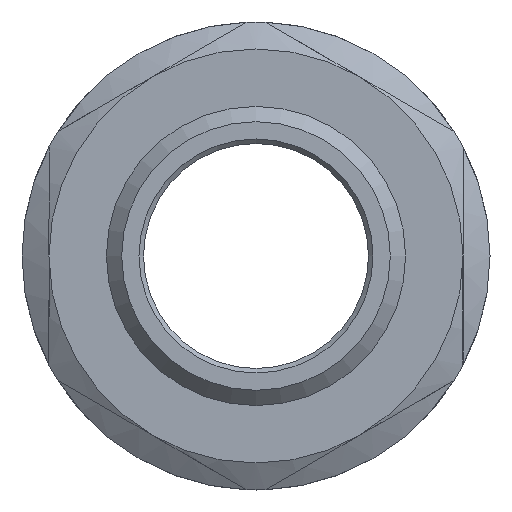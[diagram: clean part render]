
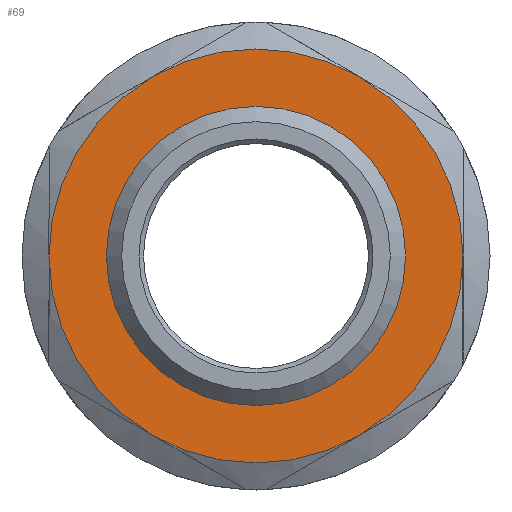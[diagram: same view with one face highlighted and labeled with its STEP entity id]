
A CAD part, front view. The second image highlights one B-rep face of the part: STEP entity #69.
In plain terms, the highlighted planar face has unit normal (0, -1, 0).
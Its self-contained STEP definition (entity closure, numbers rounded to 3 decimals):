
#69=ADVANCED_FACE('',(#264,#266),#268,.F.);
#264=FACE_BOUND('',#265,.T.);
#265=EDGE_LOOP('',(#423,#424,#425,#426,#427,#428));
#266=FACE_BOUND('',#267,.T.);
#267=EDGE_LOOP('',(#429));
#268=PLANE('',#269);
#269=AXIS2_PLACEMENT_3D('',#270,#271,#272);
#270=CARTESIAN_POINT('',(0.,-19.,0.));
#271=DIRECTION('',(0.,1.,0.));
#272=DIRECTION('',(-1.,0.,0.));
#423=ORIENTED_EDGE('',*,*,#491,.T.);
#424=ORIENTED_EDGE('',*,*,#487,.T.);
#425=ORIENTED_EDGE('',*,*,#482,.T.);
#426=ORIENTED_EDGE('',*,*,#479,.T.);
#427=ORIENTED_EDGE('',*,*,#499,.T.);
#428=ORIENTED_EDGE('',*,*,#495,.T.);
#429=ORIENTED_EDGE('',*,*,#475,.F.);
#475=EDGE_CURVE('',#571,#571,#572,.T.);
#479=EDGE_CURVE('',#575,#577,#579,.F.);
#482=EDGE_CURVE('',#582,#575,#583,.F.);
#487=EDGE_CURVE('',#587,#582,#589,.F.);
#491=EDGE_CURVE('',#592,#587,#594,.F.);
#495=EDGE_CURVE('',#597,#592,#599,.F.);
#499=EDGE_CURVE('',#577,#597,#603,.F.);
#571=VERTEX_POINT('',#768);
#572=CIRCLE('',#769,16.625);
#575=VERTEX_POINT('',#778);
#577=VERTEX_POINT('',#805);
#579=CIRCLE('',#843,23.);
#582=VERTEX_POINT('',#921);
#583=CIRCLE('',#922,23.);
#587=VERTEX_POINT('',#1026);
#589=CIRCLE('',#1059,23.);
#592=VERTEX_POINT('',#1149);
#594=CIRCLE('',#1176,23.);
#597=VERTEX_POINT('',#1254);
#599=CIRCLE('',#1281,23.);
#603=CIRCLE('',#1391,23.);
#768=CARTESIAN_POINT('',(16.625,-19.,0.));
#769=AXIS2_PLACEMENT_3D('',#770,#771,#772);
#770=CARTESIAN_POINT('',(0.,-19.,0.));
#771=DIRECTION('',(0.,-1.,0.));
#772=DIRECTION('',(1.,0.,0.));
#778=CARTESIAN_POINT('',(-11.5,-19.,19.919));
#805=CARTESIAN_POINT('',(-23.,-19.,0.));
#843=AXIS2_PLACEMENT_3D('',#844,#845,#846);
#844=CARTESIAN_POINT('',(0.,-19.,0.));
#845=DIRECTION('',(0.,1.,0.));
#846=DIRECTION('',(-1.,0.,0.));
#921=CARTESIAN_POINT('',(11.5,-19.,19.919));
#922=AXIS2_PLACEMENT_3D('',#923,#924,#925);
#923=CARTESIAN_POINT('',(0.,-19.,0.));
#924=DIRECTION('',(0.,1.,0.));
#925=DIRECTION('',(-0.5,0.,0.866));
#1026=CARTESIAN_POINT('',(23.,-19.,0.));
#1059=AXIS2_PLACEMENT_3D('',#1060,#1061,#1062);
#1060=CARTESIAN_POINT('',(0.,-19.,0.));
#1061=DIRECTION('',(0.,1.,0.));
#1062=DIRECTION('',(0.5,0.,0.866));
#1149=CARTESIAN_POINT('',(11.5,-19.,-19.919));
#1176=AXIS2_PLACEMENT_3D('',#1177,#1178,#1179);
#1177=CARTESIAN_POINT('',(0.,-19.,0.));
#1178=DIRECTION('',(0.,1.,0.));
#1179=DIRECTION('',(1.,0.,0.));
#1254=CARTESIAN_POINT('',(-11.5,-19.,-19.919));
#1281=AXIS2_PLACEMENT_3D('',#1282,#1283,#1284);
#1282=CARTESIAN_POINT('',(0.,-19.,0.));
#1283=DIRECTION('',(0.,1.,0.));
#1284=DIRECTION('',(0.5,0.,-0.866));
#1391=AXIS2_PLACEMENT_3D('',#1392,#1393,#1394);
#1392=CARTESIAN_POINT('',(0.,-19.,0.));
#1393=DIRECTION('',(0.,1.,0.));
#1394=DIRECTION('',(-0.5,0.,-0.866));
